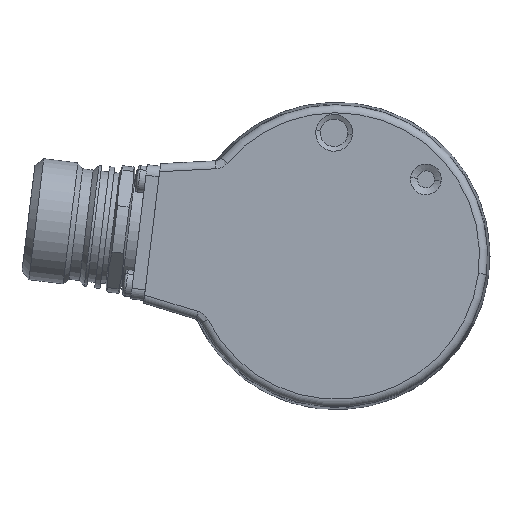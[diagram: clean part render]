
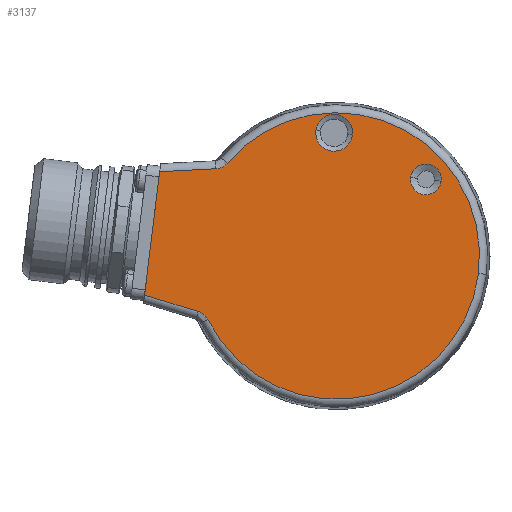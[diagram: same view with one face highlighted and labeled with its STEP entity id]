
A CAD part, left-side view. The second image highlights one B-rep face of the part: STEP entity #3137.
In plain terms, the highlighted planar face has unit normal (-1, 0, 0).
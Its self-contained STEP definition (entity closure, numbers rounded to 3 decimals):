
#2615 = VERTEX_POINT ( 'NONE', #6520 ) ;
#2624 = VERTEX_POINT ( 'NONE', #6638 ) ;
#2625 = VERTEX_POINT ( 'NONE', #6636 ) ;
#2677 = EDGE_CURVE ( 'NONE', #2678, #2615, #6785, .T. ) ;
#2678 = VERTEX_POINT ( 'NONE', #6780 ) ;
#2737 = VERTEX_POINT ( 'NONE', #7228 ) ;
#2744 = VERTEX_POINT ( 'NONE', #7075 ) ;
#2775 = EDGE_CURVE ( 'NONE', #2625, #2624, #7316, .T. ) ;
#2793 = EDGE_CURVE ( 'NONE', #2737, #2744, #7481, .T. ) ;
#2905 = VERTEX_POINT ( 'NONE', #8762 ) ;
#2912 = VERTEX_POINT ( 'NONE', #8752 ) ;
#2956 = EDGE_LOOP ( 'NONE', ( #2957, #2958 ) ) ;
#2957 = ORIENTED_EDGE ( 'NONE', *, *, #2775, .T. ) ;
#2958 = ORIENTED_EDGE ( 'NONE', *, *, #3077, .T. ) ;
#2959 = EDGE_CURVE ( 'NONE', #3075, #2980, #14362, .T. ) ;
#2961 = EDGE_CURVE ( 'NONE', #3075, #2737, #14347, .T. ) ;
#2980 = VERTEX_POINT ( 'NONE', #14416 ) ;
#2981 = ORIENTED_EDGE ( 'NONE', *, *, #3089, .F. ) ;
#2982 = ORIENTED_EDGE ( 'NONE', *, *, #3080, .T. ) ;
#2983 = ORIENTED_EDGE ( 'NONE', *, *, #2959, .F. ) ;
#2984 = ORIENTED_EDGE ( 'NONE', *, *, #2961, .T. ) ;
#2988 = ORIENTED_EDGE ( 'NONE', *, *, #2793, .T. ) ;
#2995 = EDGE_CURVE ( 'NONE', #2905, #2912, #14464, .T. ) ;
#3075 = VERTEX_POINT ( 'NONE', #14672 ) ;
#3077 = EDGE_CURVE ( 'NONE', #2624, #2625, #14564, .T. ) ;
#3078 = EDGE_LOOP ( 'NONE', ( #3079, #3130 ) ) ;
#3079 = ORIENTED_EDGE ( 'NONE', *, *, #2677, .T. ) ;
#3080 = EDGE_CURVE ( 'NONE', #3090, #2980, #14757, .T. ) ;
#3089 = EDGE_CURVE ( 'NONE', #3090, #2912, #14736, .T. ) ;
#3090 = VERTEX_POINT ( 'NONE', #14765 ) ;
#3122 = EDGE_CURVE ( 'NONE', #2905, #2744, #14801, .T. ) ;
#3130 = ORIENTED_EDGE ( 'NONE', *, *, #3136, .T. ) ;
#3131 = EDGE_LOOP ( 'NONE', ( #3132, #3133, #2981, #2982, #2983, #2984, #2988 ) ) ;
#3132 = ORIENTED_EDGE ( 'NONE', *, *, #3122, .F. ) ;
#3133 = ORIENTED_EDGE ( 'NONE', *, *, #2995, .T. ) ;
#3136 = EDGE_CURVE ( 'NONE', #2615, #2678, #14874, .T. ) ;
#3137 = ADVANCED_FACE ( 'NONE', ( #14900, #14932, #14894 ), #14897, .F. ) ;
#6520 = CARTESIAN_POINT ( 'NONE',  ( -30.5, -19.796, 14.097 ) ) ;
#6636 = CARTESIAN_POINT ( 'NONE',  ( -30.5, 3.846, 23.669 ) ) ;
#6638 = CARTESIAN_POINT ( 'NONE',  ( -30.5, -3.034, 22.824 ) ) ;
#6780 = CARTESIAN_POINT ( 'NONE',  ( -30.5, -14.042, 14.804 ) ) ;
#6781 = DIRECTION ( 'NONE',  ( 0., -0.993, -0.122 ) ) ;
#6782 = DIRECTION ( 'NONE',  ( 1., 0., 0. ) ) ;
#6783 = CARTESIAN_POINT ( 'NONE',  ( -30.5, -16.919, 14.45 ) ) ;
#6784 = AXIS2_PLACEMENT_3D ( 'NONE', #6783, #6782, #6781 ) ;
#6785 = CIRCLE ( 'NONE', #6784, 2.899 ) ;
#7075 = CARTESIAN_POINT ( 'NONE',  ( -30.5, 20.579, 17.512 ) ) ;
#7228 = CARTESIAN_POINT ( 'NONE',  ( -30.5, -26.821, -3.293 ) ) ;
#7316 = CIRCLE ( 'NONE', #7345, 3.466 ) ;
#7343 = DIRECTION ( 'NONE',  ( 0., -0.993, -0.122 ) ) ;
#7344 = DIRECTION ( 'NONE',  ( 1., 0., 0. ) ) ;
#7345 = AXIS2_PLACEMENT_3D ( 'NONE', #7456, #7344, #7343 ) ;
#7456 = CARTESIAN_POINT ( 'NONE',  ( -30.5, 0.406, 23.246 ) ) ;
#7473 = DIRECTION ( 'NONE',  ( 0., -0.993, -0.122 ) ) ;
#7475 = DIRECTION ( 'NONE',  ( -1., 0., 0. ) ) ;
#7477 = CARTESIAN_POINT ( 'NONE',  ( -30.5, 0., 0. ) ) ;
#7479 = AXIS2_PLACEMENT_3D ( 'NONE', #7477, #7475, #7473 ) ;
#7481 = CIRCLE ( 'NONE', #7479, 27.022 ) ;
#8752 = CARTESIAN_POINT ( 'NONE',  ( -30.5, 33.31, 15.905 ) ) ;
#8762 = CARTESIAN_POINT ( 'NONE',  ( -30.5, 22.708, 16.461 ) ) ;
#14263 = CARTESIAN_POINT ( 'NONE',  ( -30.5, 24.205, -12.014 ) ) ;
#14264 = DIRECTION ( 'NONE',  ( 0., -0.993, -0.122 ) ) ;
#14265 = DIRECTION ( 'NONE',  ( -1., 0., 0. ) ) ;
#14266 = CARTESIAN_POINT ( 'NONE',  ( -30.5, 0., 0. ) ) ;
#14267 = AXIS2_PLACEMENT_3D ( 'NONE', #14266, #14265, #14264 ) ;
#14301 = CARTESIAN_POINT ( 'NONE',  ( -30.5, 24.406, -11.656 ) ) ;
#14302 = CARTESIAN_POINT ( 'NONE',  ( -30.5, 24.296, -11.83 ) ) ;
#14344 = CARTESIAN_POINT ( 'NONE',  ( -30.5, 26.015, -10.478 ) ) ;
#14345 = CARTESIAN_POINT ( 'NONE',  ( -30.5, 25.819, -10.538 ) ) ;
#14346 = CARTESIAN_POINT ( 'NONE',  ( -30.5, 25.632, -10.617 ) ) ;
#14347 = CIRCLE ( 'NONE', #14267, 27.022 ) ;
#14362 = B_SPLINE_CURVE_WITH_KNOTS ( 'NONE', 3,
 ( #14263, #14302, #14301, #14372, #14371, #14370, #14369, #14346, #14345, #14344 ),
 .UNSPECIFIED., .F., .F.,
 ( 4, 2, 2, 2, 4 ),
 ( 0., 0.001, 0.001, 0.002, 0.002 ),
 .UNSPECIFIED. ) ;
#14369 = CARTESIAN_POINT ( 'NONE',  ( -30.5, 25.277, -10.811 ) ) ;
#14370 = CARTESIAN_POINT ( 'NONE',  ( -30.5, 25.107, -10.927 ) ) ;
#14371 = CARTESIAN_POINT ( 'NONE',  ( -30.5, 24.797, -11.19 ) ) ;
#14372 = CARTESIAN_POINT ( 'NONE',  ( -30.5, 24.657, -11.336 ) ) ;
#14416 = CARTESIAN_POINT ( 'NONE',  ( -30.5, 26.015, -10.478 ) ) ;
#14457 = VECTOR ( 'NONE', #14461, 1000. ) ;
#14461 = DIRECTION ( 'NONE',  ( 0., 0.999, -0.052 ) ) ;
#14462 = CARTESIAN_POINT ( 'NONE',  ( -30.5, 33.046, 15.919 ) ) ;
#14464 = LINE ( 'NONE', #14462, #14457 ) ;
#14555 = DIRECTION ( 'NONE',  ( 1., 0., 0. ) ) ;
#14563 = DIRECTION ( 'NONE',  ( 0., -0.993, -0.122 ) ) ;
#14564 = CIRCLE ( 'NONE', #14567, 3.466 ) ;
#14566 = CARTESIAN_POINT ( 'NONE',  ( -30.5, 0.406, 23.246 ) ) ;
#14567 = AXIS2_PLACEMENT_3D ( 'NONE', #14566, #14555, #14563 ) ;
#14672 = CARTESIAN_POINT ( 'NONE',  ( -30.5, 24.205, -12.014 ) ) ;
#14735 = CARTESIAN_POINT ( 'NONE',  ( -30.5, 36.354, -8.886 ) ) ;
#14736 = LINE ( 'NONE', #14735, #14743 ) ;
#14742 = DIRECTION ( 'NONE',  ( 0., -0.122, 0.993 ) ) ;
#14743 = VECTOR ( 'NONE', #14742, 1000. ) ;
#14750 = DIRECTION ( 'NONE',  ( 0., -0.956, -0.292 ) ) ;
#14757 = LINE ( 'NONE', #14766, #14758 ) ;
#14758 = VECTOR ( 'NONE', #14750, 1000. ) ;
#14765 = CARTESIAN_POINT ( 'NONE',  ( -30.5, 36.168, -7.374 ) ) ;
#14766 = CARTESIAN_POINT ( 'NONE',  ( -30.5, 25.362, -10.678 ) ) ;
#14789 = CARTESIAN_POINT ( 'NONE',  ( -30.5, 22.503, 16.471 ) ) ;
#14790 = CARTESIAN_POINT ( 'NONE',  ( -30.5, 22.708, 16.461 ) ) ;
#14794 = CARTESIAN_POINT ( 'NONE',  ( -30.5, 21.178, 16.967 ) ) ;
#14795 = CARTESIAN_POINT ( 'NONE',  ( -30.5, 21.352, 16.857 ) ) ;
#14798 = CARTESIAN_POINT ( 'NONE',  ( -30.5, 20.579, 17.512 ) ) ;
#14801 = B_SPLINE_CURVE_WITH_KNOTS ( 'NONE', 3,
 ( #14790, #14789, #14830, #14813, #14812, #14795, #14794, #14851, #14850, #14798 ),
 .UNSPECIFIED., .F., .F.,
 ( 4, 2, 2, 2, 4 ),
 ( 0., 0.001, 0.001, 0.002, 0.002 ),
 .UNSPECIFIED. ) ;
#14812 = CARTESIAN_POINT ( 'NONE',  ( -30.5, 21.716, 16.677 ) ) ;
#14813 = CARTESIAN_POINT ( 'NONE',  ( -30.5, 21.906, 16.606 ) ) ;
#14830 = CARTESIAN_POINT ( 'NONE',  ( -30.5, 22.299, 16.503 ) ) ;
#14850 = CARTESIAN_POINT ( 'NONE',  ( -30.5, 20.712, 17.356 ) ) ;
#14851 = CARTESIAN_POINT ( 'NONE',  ( -30.5, 20.859, 17.216 ) ) ;
#14856 = DIRECTION ( 'NONE',  ( 0., -0.993, -0.122 ) ) ;
#14874 = CIRCLE ( 'NONE', #14896, 2.899 ) ;
#14886 = DIRECTION ( 'NONE',  ( 0., -0.993, -0.122 ) ) ;
#14887 = DIRECTION ( 'NONE',  ( 1., 0., 0. ) ) ;
#14888 = CARTESIAN_POINT ( 'NONE',  ( -30.5, 0., 0. ) ) ;
#14889 = AXIS2_PLACEMENT_3D ( 'NONE', #14888, #14887, #14886 ) ;
#14894 = FACE_OUTER_BOUND ( 'NONE', #3131, .T. ) ;
#14896 = AXIS2_PLACEMENT_3D ( 'NONE', #14924, #14899, #14856 ) ;
#14897 = PLANE ( 'NONE',  #14889 ) ;
#14899 = DIRECTION ( 'NONE',  ( 1., 0., 0. ) ) ;
#14900 = FACE_BOUND ( 'NONE', #2956, .T. ) ;
#14924 = CARTESIAN_POINT ( 'NONE',  ( -30.5, -16.919, 14.45 ) ) ;
#14932 = FACE_BOUND ( 'NONE', #3078, .T. ) ;
